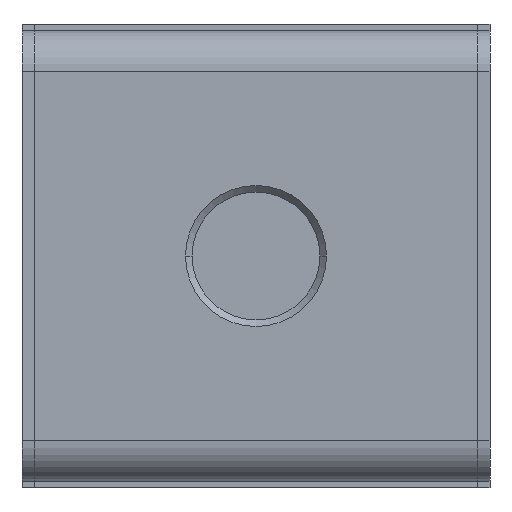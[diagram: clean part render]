
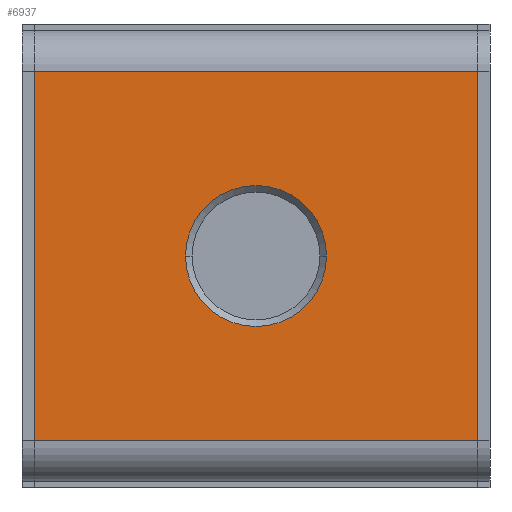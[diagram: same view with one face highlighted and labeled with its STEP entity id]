
A CAD part, front view. The second image highlights one B-rep face of the part: STEP entity #6937.
In plain terms, the highlighted planar face has unit normal (0, -1, 0).
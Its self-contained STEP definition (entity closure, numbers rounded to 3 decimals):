
#151=DIRECTION('',(0.,0.,-1.));
#152=VECTOR('',#151,55.);
#153=CARTESIAN_POINT('',(-33.,0.,27.5));
#154=LINE('',#153,#152);
#305=DIRECTION('',(0.,0.,-1.));
#306=VECTOR('',#305,55.);
#307=CARTESIAN_POINT('',(33.,0.,27.5));
#308=LINE('',#307,#306);
#2599=DIRECTION('',(1.,0.,0.));
#2600=VECTOR('',#2599,66.);
#2601=CARTESIAN_POINT('',(-33.,0.,-27.5));
#2602=LINE('',#2601,#2600);
#2603=DIRECTION('',(1.,0.,0.));
#2604=VECTOR('',#2603,66.);
#2605=CARTESIAN_POINT('',(-33.,0.,27.5));
#2606=LINE('',#2605,#2604);
#2607=CARTESIAN_POINT('',(0.,0.,0.));
#2608=DIRECTION('',(0.,1.,0.));
#2609=DIRECTION('',(1.,0.,0.));
#2610=AXIS2_PLACEMENT_3D('',#2607,#2608,#2609);
#2612=CARTESIAN_POINT('',(0.,0.,0.));
#2613=DIRECTION('',(0.,1.,0.));
#2614=DIRECTION('',(-1.,0.,0.));
#2615=AXIS2_PLACEMENT_3D('',#2612,#2613,#2614);
#2703=CARTESIAN_POINT('',(-33.,0.,27.5));
#2704=VERTEX_POINT('',#2703);
#2705=CARTESIAN_POINT('',(-33.,0.,-27.5));
#2706=VERTEX_POINT('',#2705);
#2735=CARTESIAN_POINT('',(33.,0.,27.5));
#2736=VERTEX_POINT('',#2735);
#2737=CARTESIAN_POINT('',(33.,0.,-27.5));
#2738=VERTEX_POINT('',#2737);
#2841=CARTESIAN_POINT('',(10.478,0.,0.));
#2842=CARTESIAN_POINT('',(-10.478,0.,0.));
#2843=VERTEX_POINT('',#2841);
#2844=VERTEX_POINT('',#2842);
#6919=CARTESIAN_POINT('',(-33.,0.,27.5));
#6920=DIRECTION('',(0.,-1.,0.));
#6921=DIRECTION('',(0.,0.,-1.));
#6922=AXIS2_PLACEMENT_3D('',#6919,#6920,#6921);
#6923=PLANE('',#6922);
#6924=ORIENTED_EDGE('',*,*,#3388,.F.);
#6926=ORIENTED_EDGE('',*,*,#6925,.T.);
#6927=ORIENTED_EDGE('',*,*,#3586,.T.);
#6928=ORIENTED_EDGE('',*,*,#6912,.F.);
#6929=EDGE_LOOP('',(#6924,#6926,#6927,#6928));
#6930=FACE_OUTER_BOUND('',#6929,.F.);
#6932=ORIENTED_EDGE('',*,*,#6931,.F.);
#6934=ORIENTED_EDGE('',*,*,#6933,.F.);
#6935=EDGE_LOOP('',(#6932,#6934));
#6936=FACE_BOUND('',#6935,.F.);
#6937=ADVANCED_FACE('',(#6930,#6936),#6923,.T.);
#2611=CIRCLE('',#2610,10.478);
#2616=CIRCLE('',#2615,10.478);
#3388=EDGE_CURVE('',#2704,#2706,#154,.T.);
#3586=EDGE_CURVE('',#2736,#2738,#308,.T.);
#6912=EDGE_CURVE('',#2706,#2738,#2602,.T.);
#6925=EDGE_CURVE('',#2704,#2736,#2606,.T.);
#6931=EDGE_CURVE('',#2843,#2844,#2611,.T.);
#6933=EDGE_CURVE('',#2844,#2843,#2616,.T.);
